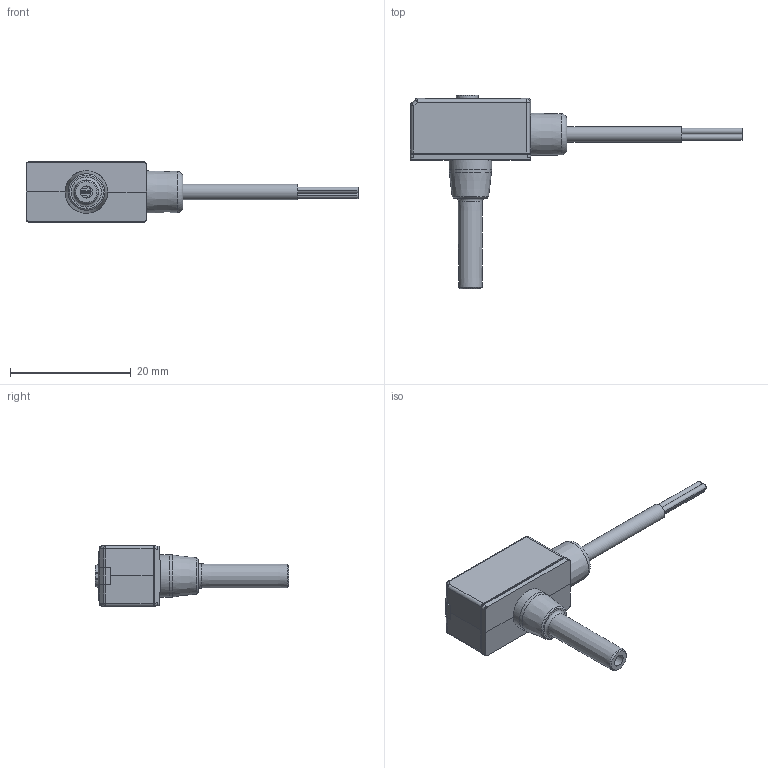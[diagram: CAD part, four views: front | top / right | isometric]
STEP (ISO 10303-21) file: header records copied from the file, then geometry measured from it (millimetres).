
FILE_DESCRIPTION(('STEP AP214'),'1');
FILE_NAME('82T4-N(P)G.stp','2026-04-16T04:54:57',(' '),(' '),'Spatial InterOp 3D',' ',' ');
FILE_SCHEMA(('AUTOMOTIVE_DESIGN { 1 0 10303 214 1 1 1 1 }'));
Length unit declared in the file: millimetre
Products named in the file (4): MPS-※82T4-N(P)G
Assembly tree (3 placements, depth 2):
  MPS-※82T4-N(P)G
    MPS-※82T4-N(P)G
    MPS-※82T4-N(P)G
    MPS-※82T4-N(P)G
Bounding box: 55 x 32 x 10 mm (x, y, z)
Volume: 1352.4 mm3; surface area: 3403.2 mm2
Topology: 2 solids, 8 shells, 460 faces, 1250 edges, 813 vertices
Faces by surface type: plane 327, cylinder 99, cone 17, bspline 7, sphere 7, torus 3
Full cylindrical faces by diameter (mm): 1 x3, 2.5 x1, 2.6 x1, 2.7 x2, 3.8 x1, 4.6 x1, 4.7 x1, 5 x1, 5.05 x2, 5.1 x1, 7.05 x1
Entity records: 18391 total; most frequent: CARTESIAN_POINT 3146, ORIENTED_EDGE 2386, DIRECTION 2310, EDGE_CURVE 1204, LINE 924, VECTOR 924, VERTEX_POINT 802, AXIS2_PLACEMENT_3D 693
